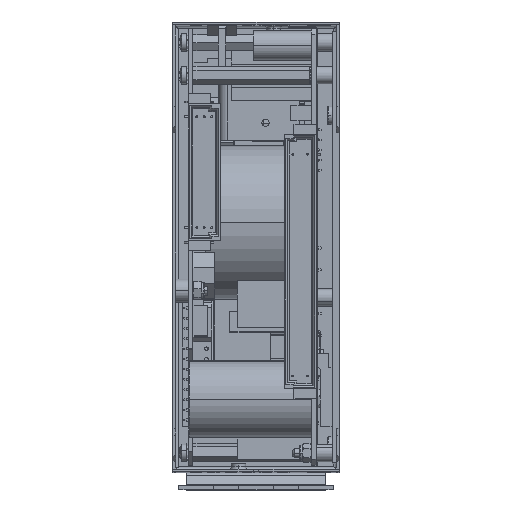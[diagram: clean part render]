
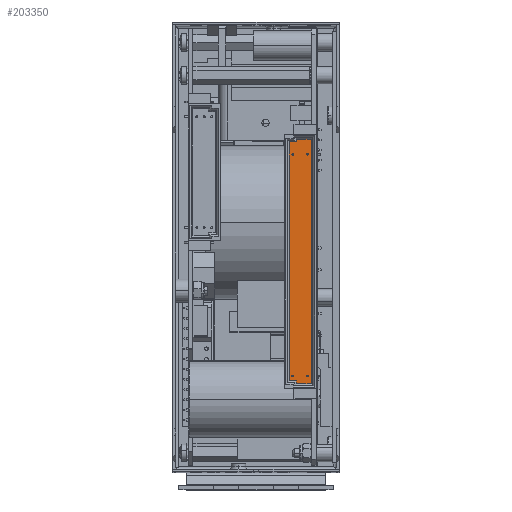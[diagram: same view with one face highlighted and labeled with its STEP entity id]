
A CAD part, top view. The second image highlights one B-rep face of the part: STEP entity #203350.
In plain terms, the highlighted planar face has unit normal (0, 0, 1).
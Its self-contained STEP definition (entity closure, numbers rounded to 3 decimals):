
#50154 = EDGE_CURVE ( 'NONE', #50161, #50166, #56160, .T. ) ;
#50161 = VERTEX_POINT ( 'NONE', #56145 ) ;
#50166 = VERTEX_POINT ( 'NONE', #56136 ) ;
#50189 = EDGE_CURVE ( 'NONE', #50193, #50198, #56197, .T. ) ;
#50193 = VERTEX_POINT ( 'NONE', #56187 ) ;
#50198 = VERTEX_POINT ( 'NONE', #56184 ) ;
#50375 = VERTEX_POINT ( 'NONE', #56603 ) ;
#50554 = EDGE_CURVE ( 'NONE', #50562, #50375, #56732, .T. ) ;
#50562 = VERTEX_POINT ( 'NONE', #56791 ) ;
#56136 = CARTESIAN_POINT ( 'NONE',  ( 46.39, 33.271, 131.955 ) ) ;
#56145 = CARTESIAN_POINT ( 'NONE',  ( 46.39, 32.671, 131.955 ) ) ;
#56152 = DIRECTION ( 'NONE',  ( 0., 1., 0. ) ) ;
#56154 = DIRECTION ( 'NONE',  ( 0., 0., -1. ) ) ;
#56156 = CARTESIAN_POINT ( 'NONE',  ( 46.39, 32.971, 131.955 ) ) ;
#56158 = AXIS2_PLACEMENT_3D ( 'NONE', #56156, #56154, #56152 ) ;
#56160 = CIRCLE ( 'NONE', #56158, 0.3 ) ;
#56184 = CARTESIAN_POINT ( 'NONE',  ( 41.31, 109.471, 131.955 ) ) ;
#56187 = CARTESIAN_POINT ( 'NONE',  ( 41.31, 108.871, 131.955 ) ) ;
#56192 = DIRECTION ( 'NONE',  ( 0., 1., 0. ) ) ;
#56194 = DIRECTION ( 'NONE',  ( 0., 0., -1. ) ) ;
#56195 = CARTESIAN_POINT ( 'NONE',  ( 41.31, 109.171, 131.955 ) ) ;
#56196 = AXIS2_PLACEMENT_3D ( 'NONE', #56195, #56194, #56192 ) ;
#56197 = CIRCLE ( 'NONE', #56196, 0.3 ) ;
#56603 = CARTESIAN_POINT ( 'NONE',  ( 46.39, 109.471, 131.955 ) ) ;
#56732 = CIRCLE ( 'NONE', #56796, 0.3 ) ;
#56791 = CARTESIAN_POINT ( 'NONE',  ( 46.39, 108.871, 131.955 ) ) ;
#56793 = DIRECTION ( 'NONE',  ( 0., 1., 0. ) ) ;
#56794 = DIRECTION ( 'NONE',  ( 0., 0., -1. ) ) ;
#56795 = CARTESIAN_POINT ( 'NONE',  ( 46.39, 109.171, 131.955 ) ) ;
#56796 = AXIS2_PLACEMENT_3D ( 'NONE', #56795, #56794, #56793 ) ;
#102086 = CARTESIAN_POINT ( 'NONE',  ( 41.31, 33.271, 131.955 ) ) ;
#102089 = CARTESIAN_POINT ( 'NONE',  ( 41.31, 32.671, 131.955 ) ) ;
#102090 = DIRECTION ( 'NONE',  ( 0., 1., 0. ) ) ;
#102091 = DIRECTION ( 'NONE',  ( 0., 0., -1. ) ) ;
#102092 = CARTESIAN_POINT ( 'NONE',  ( 41.31, 32.971, 131.955 ) ) ;
#102093 = AXIS2_PLACEMENT_3D ( 'NONE', #102092, #102091, #102090 ) ;
#102094 = CIRCLE ( 'NONE', #102093, 0.3 ) ;
#102253 = DIRECTION ( 'NONE',  ( 1., 0., 0. ) ) ;
#102254 = VECTOR ( 'NONE', #102253, 1000. ) ;
#102255 = CARTESIAN_POINT ( 'NONE',  ( 45.1, 114.39, 131.955 ) ) ;
#102256 = LINE ( 'NONE', #102255, #102254 ) ;
#102300 = CARTESIAN_POINT ( 'NONE',  ( 42.55, 30.29, 131.955 ) ) ;
#102350 = DIRECTION ( 'NONE',  ( 0., -1., 0. ) ) ;
#102351 = VECTOR ( 'NONE', #102350, 1000. ) ;
#102352 = CARTESIAN_POINT ( 'NONE',  ( 42.55, 72.34, 131.955 ) ) ;
#102353 = LINE ( 'NONE', #102352, #102351 ) ;
#102365 = DIRECTION ( 'NONE',  ( 0., -1., 0. ) ) ;
#102366 = VECTOR ( 'NONE', #102365, 1000. ) ;
#102367 = CARTESIAN_POINT ( 'NONE',  ( 47.65, 72.34, 131.955 ) ) ;
#102368 = LINE ( 'NONE', #102367, #102366 ) ;
#102378 = DIRECTION ( 'NONE',  ( 0., 1., 0. ) ) ;
#102379 = DIRECTION ( 'NONE',  ( 0., 0., -1. ) ) ;
#102380 = AXIS2_PLACEMENT_3D ( 'NONE', #102385, #102379, #102378 ) ;
#102381 = CIRCLE ( 'NONE', #102380, 0.3 ) ;
#102385 = CARTESIAN_POINT ( 'NONE',  ( 41.31, 32.971, 131.955 ) ) ;
#102493 = CARTESIAN_POINT ( 'NONE',  ( 42.55, 31.29, 131.955 ) ) ;
#102588 = DIRECTION ( 'NONE',  ( 0., 1., 0. ) ) ;
#102589 = DIRECTION ( 'NONE',  ( 0., 0., -1. ) ) ;
#102590 = CARTESIAN_POINT ( 'NONE',  ( 46.39, 32.971, 131.955 ) ) ;
#102591 = AXIS2_PLACEMENT_3D ( 'NONE', #102590, #102589, #102588 ) ;
#102592 = CIRCLE ( 'NONE', #102591, 0.3 ) ;
#102655 = DIRECTION ( 'NONE',  ( -1., 0., 0. ) ) ;
#102656 = VECTOR ( 'NONE', #102655, 1000. ) ;
#102657 = CARTESIAN_POINT ( 'NONE',  ( 41.025, 31.29, 131.955 ) ) ;
#102658 = LINE ( 'NONE', #102657, #102656 ) ;
#102667 = CARTESIAN_POINT ( 'NONE',  ( 40.05, 31.29, 131.955 ) ) ;
#102694 = CARTESIAN_POINT ( 'NONE',  ( 47.65, 114.39, 131.955 ) ) ;
#102699 = CARTESIAN_POINT ( 'NONE',  ( 47.65, 30.29, 131.955 ) ) ;
#102700 = DIRECTION ( 'NONE',  ( -1., 0., 0. ) ) ;
#102701 = VECTOR ( 'NONE', #102700, 1000. ) ;
#102702 = CARTESIAN_POINT ( 'NONE',  ( 45.1, 30.29, 131.955 ) ) ;
#102703 = LINE ( 'NONE', #102702, #102701 ) ;
#102762 = DIRECTION ( 'NONE',  ( 0., 1., 0. ) ) ;
#102763 = DIRECTION ( 'NONE',  ( 0., 0., -1. ) ) ;
#102764 = CARTESIAN_POINT ( 'NONE',  ( 46.39, 109.171, 131.955 ) ) ;
#102765 = AXIS2_PLACEMENT_3D ( 'NONE', #102764, #102763, #102762 ) ;
#102766 = CIRCLE ( 'NONE', #102765, 0.3 ) ;
#102784 = DIRECTION ( 'NONE',  ( 0., 1., 0. ) ) ;
#102785 = VECTOR ( 'NONE', #102784, 1000. ) ;
#102786 = CARTESIAN_POINT ( 'NONE',  ( 40.05, 72.34, 131.955 ) ) ;
#102787 = LINE ( 'NONE', #102786, #102785 ) ;
#102793 = CARTESIAN_POINT ( 'NONE',  ( 40.05, 113.39, 131.955 ) ) ;
#102794 = DIRECTION ( 'NONE',  ( 1., 0., 0. ) ) ;
#102795 = VECTOR ( 'NONE', #102794, 1000. ) ;
#102796 = CARTESIAN_POINT ( 'NONE',  ( 41.025, 113.39, 131.955 ) ) ;
#102797 = LINE ( 'NONE', #102796, #102795 ) ;
#102803 = DIRECTION ( 'NONE',  ( 1., 0., 0. ) ) ;
#102804 = DIRECTION ( 'NONE',  ( 0., 0., 1. ) ) ;
#102806 = CARTESIAN_POINT ( 'NONE',  ( 39.065, 25.48, 131.955 ) ) ;
#102807 = AXIS2_PLACEMENT_3D ( 'NONE', #102806, #102804, #102803 ) ;
#102808 = FACE_OUTER_BOUND ( 'NONE', #203190, .T. ) ;
#102809 = FACE_BOUND ( 'NONE', #203183, .T. ) ;
#102810 = FACE_BOUND ( 'NONE', #203249, .T. ) ;
#102811 = FACE_BOUND ( 'NONE', #203241, .T. ) ;
#102812 = FACE_BOUND ( 'NONE', #203352, .T. ) ;
#102816 = PLANE ( 'NONE',  #102807 ) ;
#102821 = DIRECTION ( 'NONE',  ( 0., -1., 0. ) ) ;
#102822 = VECTOR ( 'NONE', #102821, 1000. ) ;
#102823 = CARTESIAN_POINT ( 'NONE',  ( 42.55, 72.34, 131.955 ) ) ;
#102824 = LINE ( 'NONE', #102823, #102822 ) ;
#102829 = CARTESIAN_POINT ( 'NONE',  ( 42.55, 113.39, 131.955 ) ) ;
#102851 = DIRECTION ( 'NONE',  ( 0., 1., 0. ) ) ;
#102852 = DIRECTION ( 'NONE',  ( 0., 0., -1. ) ) ;
#102853 = CARTESIAN_POINT ( 'NONE',  ( 41.31, 109.171, 131.955 ) ) ;
#102854 = AXIS2_PLACEMENT_3D ( 'NONE', #102853, #102852, #102851 ) ;
#102855 = CIRCLE ( 'NONE', #102854, 0.3 ) ;
#102903 = CARTESIAN_POINT ( 'NONE',  ( 42.55, 114.39, 131.955 ) ) ;
#188842 = EDGE_CURVE ( 'NONE', #188844, #188853, #102094, .T. ) ;
#188844 = VERTEX_POINT ( 'NONE', #102089 ) ;
#188853 = VERTEX_POINT ( 'NONE', #102086 ) ;
#189008 = ORIENTED_EDGE ( 'NONE', *, *, #189010, .F. ) ;
#189010 = EDGE_CURVE ( 'NONE', #203406, #203277, #102256, .T. ) ;
#189089 = VERTEX_POINT ( 'NONE', #102300 ) ;
#189104 = EDGE_CURVE ( 'NONE', #203164, #189089, #102353, .T. ) ;
#189132 = EDGE_CURVE ( 'NONE', #188853, #188844, #102381, .T. ) ;
#189141 = ORIENTED_EDGE ( 'NONE', *, *, #189145, .F. ) ;
#189145 = EDGE_CURVE ( 'NONE', #203277, #203274, #102368, .T. ) ;
#203164 = VERTEX_POINT ( 'NONE', #102493 ) ;
#203177 = ORIENTED_EDGE ( 'NONE', *, *, #203220, .T. ) ;
#203180 = ORIENTED_EDGE ( 'NONE', *, *, #50154, .T. ) ;
#203183 = EDGE_LOOP ( 'NONE', ( #203186, #203188 ) ) ;
#203186 = ORIENTED_EDGE ( 'NONE', *, *, #189132, .T. ) ;
#203188 = ORIENTED_EDGE ( 'NONE', *, *, #188842, .T. ) ;
#203190 = EDGE_LOOP ( 'NONE', ( #203192, #203320, #203328, #203259, #203266, #203270, #189141, #189008 ) ) ;
#203192 = ORIENTED_EDGE ( 'NONE', *, *, #203344, .T. ) ;
#203220 = EDGE_CURVE ( 'NONE', #50166, #50161, #102592, .T. ) ;
#203238 = ORIENTED_EDGE ( 'NONE', *, *, #50554, .T. ) ;
#203241 = EDGE_LOOP ( 'NONE', ( #203245, #203248 ) ) ;
#203245 = ORIENTED_EDGE ( 'NONE', *, *, #203362, .T. ) ;
#203248 = ORIENTED_EDGE ( 'NONE', *, *, #50189, .T. ) ;
#203249 = EDGE_LOOP ( 'NONE', ( #203177, #203180 ) ) ;
#203255 = VERTEX_POINT ( 'NONE', #102667 ) ;
#203259 = ORIENTED_EDGE ( 'NONE', *, *, #203262, .F. ) ;
#203262 = EDGE_CURVE ( 'NONE', #203164, #203255, #102658, .T. ) ;
#203266 = ORIENTED_EDGE ( 'NONE', *, *, #189104, .T. ) ;
#203270 = ORIENTED_EDGE ( 'NONE', *, *, #203272, .F. ) ;
#203272 = EDGE_CURVE ( 'NONE', #203274, #189089, #102703, .T. ) ;
#203274 = VERTEX_POINT ( 'NONE', #102699 ) ;
#203277 = VERTEX_POINT ( 'NONE', #102694 ) ;
#203307 = EDGE_CURVE ( 'NONE', #50375, #50562, #102766, .T. ) ;
#203320 = ORIENTED_EDGE ( 'NONE', *, *, #203323, .F. ) ;
#203323 = EDGE_CURVE ( 'NONE', #203324, #203339, #102797, .T. ) ;
#203324 = VERTEX_POINT ( 'NONE', #102793 ) ;
#203328 = ORIENTED_EDGE ( 'NONE', *, *, #203331, .F. ) ;
#203331 = EDGE_CURVE ( 'NONE', #203255, #203324, #102787, .T. ) ;
#203339 = VERTEX_POINT ( 'NONE', #102829 ) ;
#203344 = EDGE_CURVE ( 'NONE', #203406, #203339, #102824, .T. ) ;
#203350 = ADVANCED_FACE ( 'NONE', ( #102812, #102811, #102810, #102809, #102808 ), #102816, .T. ) ;
#203352 = EDGE_LOOP ( 'NONE', ( #203355, #203238 ) ) ;
#203355 = ORIENTED_EDGE ( 'NONE', *, *, #203307, .T. ) ;
#203362 = EDGE_CURVE ( 'NONE', #50198, #50193, #102855, .T. ) ;
#203406 = VERTEX_POINT ( 'NONE', #102903 ) ;
